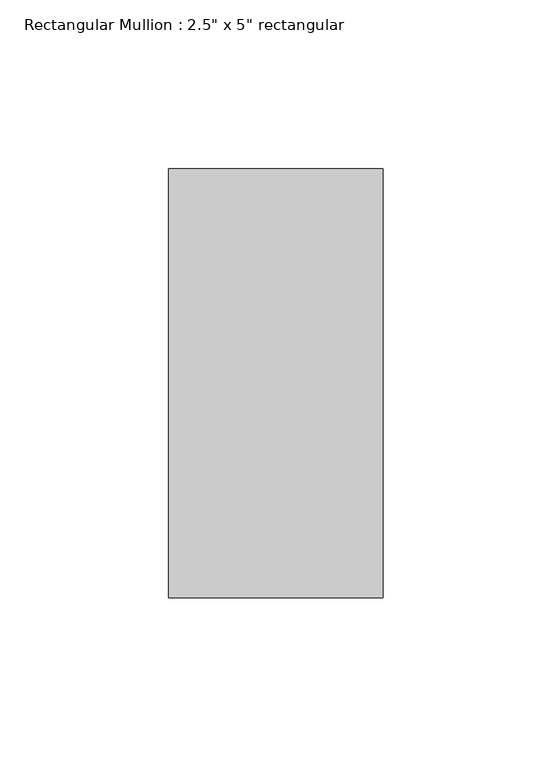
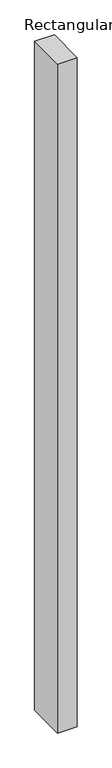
"""IFC4 building model written with IfcOpenShell, lengths in millimetres: member geometry."""

from ifc_helpers import new_model, si_unit, frame, origin, place, context, project, spatial, polyline, outline, extrude, source, transform, mapped, element, save


def member_f6712c19(model_context):
    return source(origin(), model_context, "Body", "SweptSolid", [
        extrude(outline(polyline([(0.0, 63.5), (0.0, -63.5), (-63.5, -63.5), (-63.5, 63.5), (0.0, 63.5)])), frame((0.0, 0.0, -2273.046), z_axis=(0.0, 0.0, 1.0), x_axis=(1.0, 0.0, 0.0)), (0.0, 0.0, 1.0), 2273.046),
    ])


if __name__ == "__main__":
    model = new_model("IFC4")
    model_context = context("Model", 3, world=origin())
    ifc_project = project(units=[si_unit("LENGTHUNIT", "METRE", prefix="MILLI")], contexts=[model_context])
    site = spatial("IfcSite", under=ifc_project)
    building = spatial("IfcBuilding", under=site)
    placement = place(None, origin())
    member_shape = member_f6712c19(model_context)
    element("IfcMember", 1, ObjectType="Rectangular Mullion : 2.5\" x 5\" rectangular", at=placement, inside=building, context=model_context, shape_type="MappedRepresentation", body=[
        mapped(member_shape, transform((0.0, 0.0, 0.0), x_axis=(1.0, 0.0, 0.0), y_axis=(0.0, 1.0, 0.0), z_axis=(0.0, 0.0, 1.0))),
    ])
    save(model, "model.ifc")
